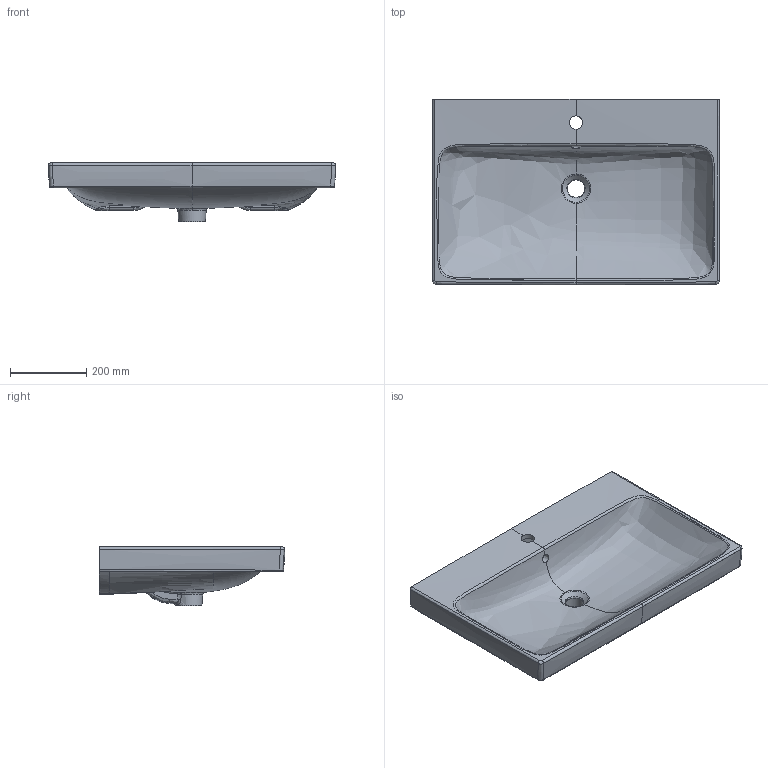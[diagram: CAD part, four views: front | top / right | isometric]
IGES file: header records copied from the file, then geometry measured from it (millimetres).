
Global section: file name: 510.008.00.1; native system: Autodesk Inventor 2023; preprocessor: unknown; author: JANAN; date: 20241002.121755; units: millimetre
Bounding box: 754.36 x 488 x 156.5 mm (x, y, z)
Volume: 12333552.7 mm3; surface area: 1128378.5 mm2
Topology: 1 solids, 1 shells, 139 faces, 371 edges, 229 vertices
Faces by surface type: bspline 139
